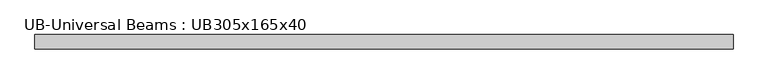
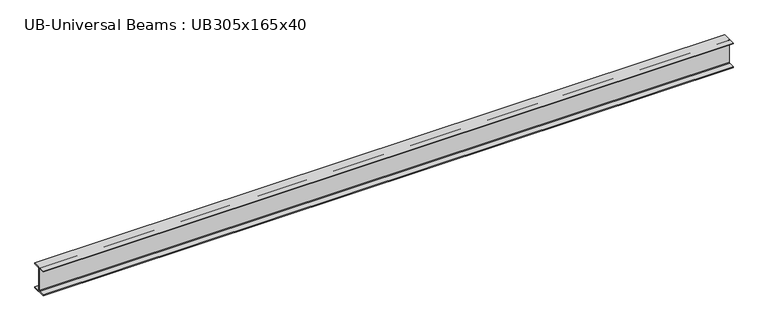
"""IFC4 building model written with IfcOpenShell, lengths in millimetres: beam geometry, UB-Universal Beams : UB305x165x40."""

from ifc_helpers import new_model, si_unit, point, frame, frame_2d, origin, place, context, project, spatial, polyline, circle_curve, trimmed, segment, composite_curve, outline, extrude, source, transform, mapped, element, save


def ub_universal_beams_ub305x165x40_0c73730f(model_context):
    return source(origin(), model_context, "Body", "SweptSolid", [
        extrude(outline(composite_curve([segment(polyline([(82.5, -141.5), (82.5, -151.7), (-82.5, -151.7), (-82.5, -141.5), (-11.9, -141.5)]), True, "CONTINUOUS"), segment(trimmed(circle_curve(frame_2d((-11.9, -132.6)), 8.9), [point((-11.9, -141.5))], [point((-3.0, -132.6))], True, "CARTESIAN"), True, "CONTINUOUS"), segment(polyline([(-3.0, -132.6), (-3.0, 132.6)]), True, "CONTINUOUS"), segment(trimmed(circle_curve(frame_2d((-11.9, 132.6)), 8.9), [point((-3.0, 132.6))], [point((-11.9, 141.5))], True, "CARTESIAN"), True, "CONTINUOUS"), segment(polyline([(-11.9, 141.5), (-82.5, 141.5), (-82.5, 151.7), (82.5, 151.7), (82.5, 141.5), (11.9, 141.5)]), True, "CONTINUOUS"), segment(trimmed(circle_curve(frame_2d((11.9, 132.6)), 8.9), [point((11.9, 141.5))], [point((3.0, 132.6))], True, "CARTESIAN"), True, "CONTINUOUS"), segment(polyline([(3.0, 132.6), (3.0, -132.6)]), True, "CONTINUOUS"), segment(trimmed(circle_curve(frame_2d((11.9, -132.6)), 8.9), [point((3.0, -132.6))], [point((11.9, -141.5))], True, "CARTESIAN"), True, "CONTINUOUS"), segment(polyline([(11.9, -141.5), (82.5, -141.5)]), True, "CONTINUOUS")], self_intersect=False)), frame((-4021.0, 0.0, 0.0), z_axis=(1.0, 0.0, 0.0), x_axis=(0.0, 1.0, 0.0)), (0.0, 0.0, 1.0), 8042.0),
    ])


if __name__ == "__main__":
    model = new_model("IFC4")
    model_context = context("Model", 3, world=origin())
    ifc_project = project(units=[si_unit("LENGTHUNIT", "METRE", prefix="MILLI")], contexts=[model_context])
    site = spatial("IfcSite", under=ifc_project)
    building = spatial("IfcBuilding", under=site)
    placement = place(None, origin())
    ub_universal_beams_ub305x165x40_shape = ub_universal_beams_ub305x165x40_0c73730f(model_context)
    element("IfcBeam", 1, ObjectType="UB-Universal Beams : UB305x165x40", at=placement, inside=building, context=model_context, shape_type="MappedRepresentation", body=[
        mapped(ub_universal_beams_ub305x165x40_shape, transform((0.0, 0.0, 0.0), x_axis=(1.0, 0.0, 0.0), y_axis=(0.0, 1.0, 0.0), z_axis=(0.0, 0.0, 1.0))),
    ])
    save(model, "model.ifc")
